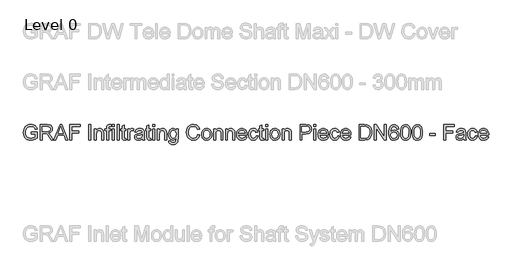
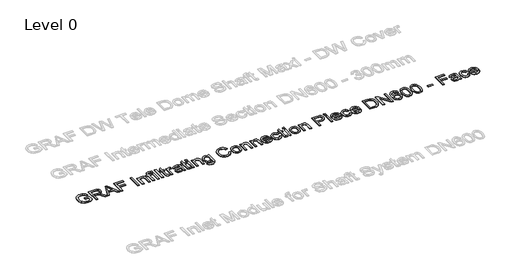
# One storey, part 9 of 25: 1 proxy.
"""IFC4 building model written with IfcOpenShell, lengths in millimetres."""

from ifc_helpers import new_model, si_unit, origin, origin_with_axes, place, context, project, spatial, polyline, outline, extrude, element, save

model = new_model("IFC4")

# Units and contexts
model_context = context("Model", 3, world=origin())
ifc_project = project(units=[si_unit("LENGTHUNIT", "METRE", prefix="MILLI")], contexts=[model_context])

# Site, building, storey
site = spatial("IfcSite", under=ifc_project)
building = spatial("IfcBuilding", under=site)
storey = spatial("IfcBuildingStorey", under=building, Name="Level 0", Elevation=0.0)

# Proxy
placement = place(None, origin())
element("IfcBuildingElementProxy", 1, Name="300mm Arial", ObjectType="300mm Arial", at=placement, inside=storey, context=model_context, shape_type="SweptSolid", body=[
    extrude(outline(polyline([(-15240.9940387, -2083.2545597), (-15240.9940387, -2045.5834434), (-15118.5629107, -2045.5834434), (-15118.5629107, -2158.2289103), (-15148.3153671, -2178.9222726), (-15179.0059225, -2193.7663111), (-15210.5610007, -2202.7058436), (-15242.9070251, -2205.6856877), (-15285.1674693, -2200.949207), (-15323.3628175, -2186.739765), (-15355.0926395, -2163.5540022), (-15377.9565055, -2131.8885595), (-15391.7796715, -2093.9047435), (-15396.3873935, -2051.7638609), (-15391.7980656, -2009.3194757), (-15378.0300819, -1969.8365406), (-15355.6536596, -1936.717964), (-15325.2390156, -1913.3666543), (-15288.1932987, -1899.5158972), (-15245.9236575, -1894.8989782), (-15214.8928112, -1897.5753197), (-15186.9889618, -1905.6043443), (-15163.4904994, -1918.4066377), (-15145.6758138, -1935.4027859), (-15132.4964413, -1957.4113262), (-15122.9039183, -1985.2507962), (-15157.6319786, -1995.0364573), (-15165.3850917, -1975.1800266), (-15174.8120678, -1960.1980323), (-15187.2832674, -1948.9040551), (-15204.169051, -1940.1116754), (-15224.3013932, -1934.4554897), (-15246.5122687, -1932.5700945), (-15272.5123287, -1934.6026425), (-15294.7415982, -1940.7002866), (-15313.1173039, -1950.0996716), (-15327.5566722, -1962.0374423), (-15346.9440533, -1991.0633317), (-15355.7732212, -2019.50061), (-15358.7162772, -2050.2187566), (-15355.175413, -2086.2436009), (-15344.5528204, -2115.8856927), (-15327.1703961, -2138.9334997), (-15303.3500369, -2155.1754898), (-15275.4737787, -2164.804801), (-15245.9236575, -2168.0145714), (-15219.831627, -2165.5957473), (-15194.3833899, -2158.3392749), (-15172.2828791, -2148.3420817), (-15156.234027, -2137.701095), (-15156.234027, -2083.2545597), (-15240.9940387, -2083.2545597)])), origin_with_axes(), (0.0, 0.0, 1.0), 10.0),
    extrude(outline(polyline([(-15057.3473467, -2200.9767982), (-15057.3473467, -1899.6078677), (-14927.4850024, -1899.6078677), (-14892.5821982, -1901.6404158), (-14867.1891434, -1907.7380598), (-14848.6294968, -1918.9952489), (-14834.2269167, -1936.5064318), (-14824.9838815, -1958.2206666), (-14821.9028698, -1982.087011), (-14827.0072325, -2011.7750881), (-14842.3203206, -2036.3863935), (-14853.9200997, -2046.4157764), (-14868.3019865, -2054.4310054), (-14905.4120827, -2064.4190016), (-14884.0013506, -2080.532233), (-14853.467145, -2119.3069952), (-14803.2144645, -2200.9767982), (-14846.9924219, -2200.9767982), (-14886.2086426, -2138.5104354), (-14914.5355562, -2097.1604991), (-14934.4379722, -2077.6259652), (-14952.3538253, -2070.4522663), (-14974.2060158, -2069.1278911), (-15019.6762304, -2069.1278911), (-15019.6762304, -2200.9767982), (-15057.3473467, -2200.9767982)]), holes=[polyline([(-15019.6762304, -2031.4567748), (-14935.3576771, -2031.4567748), (-14911.1418448, -2030.1232026), (-14892.3522719, -2026.1224859), (-14878.2072092, -2019.1879103), (-14867.9249074, -2009.0527613), (-14861.6617165, -1996.7930938), (-14859.5739861, -1983.4849626), (-14863.5563087, -1965.109257), (-14875.5032765, -1950.3020067), (-14896.058683, -1940.5347397), (-14925.8663217, -1937.278984), (-15019.6762304, -1937.278984), (-15019.6762304, -2031.4567748)])]), origin_with_axes(), (0.0, 0.0, 1.0), 10.0),
    extrude(outline(polyline([(-14791.0743586, -2200.9767982), (-14670.7769462, -1899.6078677), (-14638.6976362, -1899.6078677), (-14518.4002238, -2200.9767982), (-14558.2050557, -2200.9767982), (-14592.7123868, -2106.7990074), (-14716.835772, -2106.7990074), (-14751.2695268, -2200.9767982), (-14791.0743586, -2200.9767982)]), holes=[polyline([(-14703.003409, -2069.1278911), (-14606.4711735, -2069.1278911), (-14633.6208647, -1995.0364573), (-14654.7372912, -1937.278984), (-14673.499273, -1988.5617342), (-14703.003409, -2069.1278911)])]), origin_with_axes(), (0.0, 0.0, 1.0), 10.0),
    extrude(outline(polyline([(-14478.1539335, -2200.9767982), (-14478.1539335, -1899.6078677), (-14275.6716834, -1899.6078677), (-14275.6716834, -1937.278984), (-14440.4828172, -1937.278984), (-14440.4828172, -2026.7478853), (-14299.2161311, -2026.7478853), (-14299.2161311, -2064.4190016), (-14440.4828172, -2064.4190016), (-14440.4828172, -2200.9767982), (-14478.1539335, -2200.9767982)])), origin_with_axes(), (0.0, 0.0, 1.0), 10.0),
    extrude(outline(polyline([(-14101.4427705, -2200.9767982), (-14101.4427705, -1899.6078677), (-14063.7716542, -1899.6078677), (-14063.7716542, -2200.9767982), (-14101.4427705, -2200.9767982)])), origin_with_axes(), (0.0, 0.0, 1.0), 10.0),
    extrude(outline(polyline([(-13993.1383111, -2200.9767982), (-13993.1383111, -1979.6589899), (-13955.4671948, -1979.6589899), (-13955.4671948, -2010.5610775), (-13942.3797928, -1994.981275), (-13926.6620346, -1983.8528446), (-13908.3139201, -1977.1757864), (-13887.3354493, -1974.9501003), (-13868.7666056, -1976.7435251), (-13851.7612603, -1982.1237992), (-13837.5794094, -1990.4195382), (-13827.4810487, -2000.9593574), (-13816.1870714, -2028.6608716), (-13814.2005086, -2065.0811892), (-13814.2005086, -2200.9767982), (-13851.8716249, -2200.9767982), (-13851.8716249, -2070.1579607), (-13856.2126325, -2036.8278519), (-13862.2183061, -2026.9042351), (-13871.5533117, -2019.2063044), (-13883.5186736, -2014.2674886), (-13897.415416, -2012.6212166), (-13919.4791386, -2016.3184307), (-13938.2871056, -2027.4100729), (-13945.8033946, -2036.4645685), (-13951.1721725, -2048.8391991), (-13955.4671948, -2083.5488653), (-13955.4671948, -2200.9767982), (-13993.1383111, -2200.9767982)])), origin_with_axes(), (0.0, 0.0, 1.0), 10.0),
    extrude(outline(polyline([(-13752.9849446, -2200.9767982), (-13752.9849446, -2017.3301062), (-13785.9471714, -2017.3301062), (-13785.9471714, -1979.6589899), (-13752.9849446, -1979.6589899), (-13752.9849446, -1957.365341), (-13749.0118191, -1925.9482186), (-13741.43345, -1913.4218366), (-13729.7348025, -1903.5074169), (-13713.3640538, -1897.0510879), (-13691.7693806, -1894.8989782), (-13657.4092023, -1899.0192565), (-13662.9274322, -1934.3359281), (-13684.6324699, -1932.5700945), (-13698.9522766, -1934.133593), (-13708.3608586, -1938.8240884), (-13713.5755859, -1947.782015), (-13715.3138283, -1962.1478069), (-13715.3138283, -1979.6589899), (-13672.9338225, -1979.6589899), (-13672.9338225, -2017.3301062), (-13715.3138283, -2017.3301062), (-13715.3138283, -2200.9767982), (-13752.9849446, -2200.9767982)])), origin_with_axes(), (0.0, 0.0, 1.0), 10.0),
    extrude(outline(polyline([(-13639.9715957, -1937.278984), (-13639.9715957, -1899.6078677), (-13602.3004794, -1899.6078677), (-13602.3004794, -1937.278984), (-13639.9715957, -1937.278984)])), origin_with_axes(), (0.0, 0.0, 1.0), 10.0),
    extrude(outline(polyline([(-13639.9715957, -2200.9767982), (-13639.9715957, -1979.6589899), (-13602.3004794, -1979.6589899), (-13602.3004794, -2200.9767982), (-13639.9715957, -2200.9767982)])), origin_with_axes(), (0.0, 0.0, 1.0), 10.0),
    extrude(outline(polyline([(-13545.793805, -2200.9767982), (-13545.793805, -1899.6078677), (-13508.1226887, -1899.6078677), (-13508.1226887, -2200.9767982), (-13545.793805, -2200.9767982)])), origin_with_axes(), (0.0, 0.0, 1.0), 10.0),
    extrude(outline(polyline([(-13371.564892, -2169.5596758), (-13366.8560025, -2202.0804442), (-13395.0357633, -2205.6856877), (-13413.1171634, -2204.1221892), (-13426.6000385, -2199.4316938), (-13436.1281822, -2192.2028126), (-13442.3453879, -2183.0241568), (-13445.7666905, -2167.2604133), (-13446.9071247, -2140.276269), (-13446.9071247, -2017.3301062), (-13475.1604619, -2017.3301062), (-13475.1604619, -1979.6589899), (-13446.9071247, -1979.6589899), (-13446.9071247, -1925.8746422), (-13409.2360084, -1903.7281461), (-13409.2360084, -1979.6589899), (-13371.564892, -1979.6589899), (-13371.564892, -2017.3301062), (-13409.2360084, -2017.3301062), (-13409.2360084, -2139.172623), (-13407.2494456, -2158.5967923), (-13400.8115107, -2165.4761856), (-13387.972429, -2168.0145714), (-13371.564892, -2169.5596758)])), origin_with_axes(), (0.0, 0.0, 1.0), 10.0),
    extrude(outline(polyline([(-13333.8937757, -2200.9767982), (-13333.8937757, -1979.6589899), (-13300.931549, -1979.6589899), (-13300.931549, -2012.4004875), (-13288.7546549, -1993.4177765), (-13277.5342541, -1982.2341638), (-13266.277065, -1976.7711162), (-13253.9898064, -1974.9501003), (-13235.2278246, -1977.8563681), (-13216.1715373, -1986.5751714), (-13228.7531015, -2020.3467385), (-13241.9968533, -2014.5525971), (-13255.2406052, -2012.6212166), (-13266.4885972, -2014.4790207), (-13276.5409727, -2020.052433), (-13284.6619677, -2028.918389), (-13290.1158183, -2040.6538247), (-13294.6959492, -2061.6966748), (-13296.2226594, -2084.6525113), (-13296.2226594, -2200.9767982), (-13333.8937757, -2200.9767982)])), origin_with_axes(), (0.0, 0.0, 1.0), 10.0),
    extrude(outline(polyline([(-13051.3604034, -2172.7234609), (-13069.3590301, -2188.1561106), (-13087.8910856, -2198.2544714), (-13107.3796343, -2203.8278836), (-13128.2477404, -2205.6856877), (-13159.7292422, -2201.2159215), (-13182.9517931, -2187.8066228), (-13197.2715998, -2167.4443543), (-13202.0448687, -2142.1156789), (-13200.2422469, -2126.4990883), (-13194.8343816, -2112.3172373), (-13186.4926573, -2100.1771315), (-13175.8884588, -2090.685776), (-13149.5113198, -2078.324941), (-13116.916975, -2072.6595583), (-13078.3997301, -2066.6998699), (-13051.5811326, -2059.710112), (-13051.3604034, -2051.3224025), (-13053.9539715, -2034.5101954), (-13061.7346757, -2023.5105237), (-13079.1354941, -2015.3435434), (-13103.3789176, -2012.6212166), (-13125.8197193, -2014.4330355), (-13141.4914923, -2019.868492), (-13152.1784642, -2029.9208675), (-13159.6648628, -2045.5834434), (-13197.3359791, -2040.8745539), (-13190.7968767, -2020.2731621), (-13181.0388067, -2004.0863544), (-13167.1512614, -1991.7071252), (-13148.2237328, -1982.5284694), (-13125.0747582, -1976.8446926), (-13098.5228752, -1974.9501003), (-13073.0562441, -1976.6239634), (-13052.8687196, -1981.6455527), (-13037.6476021, -1989.1963306), (-13027.0801918, -1998.4577598), (-13020.0720398, -2009.9080869), (-13015.5286971, -2024.0255585), (-13013.6892871, -2056.9877853), (-13013.6892871, -2103.8559515), (-13011.7763008, -2169.3021584), (-13004.2715081, -2200.9767982), (-13041.9426244, -2200.9767982), (-13051.3604034, -2172.7234609)]), holes=[polyline([(-13051.3604034, -2097.3812283), (-13112.134509, -2108.932723), (-13144.5449128, -2115.0395641), (-13159.2234044, -2124.972378), (-13164.3737524, -2139.4669286), (-13161.5686521, -2150.6689353), (-13153.1533515, -2159.8475911), (-13139.3117914, -2165.9728263), (-13120.2279129, -2168.0145714), (-13099.9944032, -2165.7612942), (-13082.1153382, -2159.0014625), (-13067.6207876, -2149.0410575), (-13057.540821, -2137.1860602), (-13053.0710547, -2124.972378), (-13051.5811326, -2108.0498062), (-13051.3604034, -2097.3812283)])]), origin_with_axes(), (0.0, 0.0, 1.0), 10.0),
    extrude(outline(polyline([(-12881.8403801, -2169.5596758), (-12877.1314905, -2202.0804442), (-12905.3112514, -2205.6856877), (-12923.3926514, -2204.1221892), (-12936.8755265, -2199.4316938), (-12946.4036702, -2192.2028126), (-12952.6208759, -2183.0241568), (-12956.0421785, -2167.2604133), (-12957.1826127, -2140.276269), (-12957.1826127, -2017.3301062), (-12985.4359499, -2017.3301062), (-12985.4359499, -1979.6589899), (-12957.1826127, -1979.6589899), (-12957.1826127, -1925.8746422), (-12919.5114964, -1903.7281461), (-12919.5114964, -1979.6589899), (-12881.8403801, -1979.6589899), (-12881.8403801, -2017.3301062), (-12919.5114964, -2017.3301062), (-12919.5114964, -2139.172623), (-12917.5249336, -2158.5967923), (-12911.0869987, -2165.4761856), (-12898.2479171, -2168.0145714), (-12881.8403801, -2169.5596758)])), origin_with_axes(), (0.0, 0.0, 1.0), 10.0),
    extrude(outline(polyline([(-12844.1692638, -1937.278984), (-12844.1692638, -1899.6078677), (-12806.4981475, -1899.6078677), (-12806.4981475, -1937.278984), (-12844.1692638, -1937.278984)])), origin_with_axes(), (0.0, 0.0, 1.0), 10.0),
    extrude(outline(polyline([(-12844.1692638, -2200.9767982), (-12844.1692638, -1979.6589899), (-12806.4981475, -1979.6589899), (-12806.4981475, -2200.9767982), (-12844.1692638, -2200.9767982)])), origin_with_axes(), (0.0, 0.0, 1.0), 10.0),
    extrude(outline(polyline([(-12749.991473, -2200.9767982), (-12749.991473, -1979.6589899), (-12712.3203567, -1979.6589899), (-12712.3203567, -2010.5610775), (-12699.2329547, -1994.981275), (-12683.5151965, -1983.8528446), (-12665.167082, -1977.1757864), (-12644.1886112, -1974.9501003), (-12625.6197675, -1976.7435251), (-12608.6144222, -1982.1237992), (-12594.4325713, -1990.4195382), (-12584.3342106, -2000.9593574), (-12573.0402333, -2028.6608716), (-12571.0536705, -2065.0811892), (-12571.0536705, -2200.9767982), (-12608.7247868, -2200.9767982), (-12608.7247868, -2070.1579607), (-12613.0657944, -2036.8278519), (-12619.071468, -2026.9042351), (-12628.4064736, -2019.2063044), (-12640.3718355, -2014.2674886), (-12654.2685778, -2012.6212166), (-12676.3323005, -2016.3184307), (-12695.1402675, -2027.4100729), (-12702.6565565, -2036.4645685), (-12708.0253344, -2048.8391991), (-12712.3203567, -2083.5488653), (-12712.3203567, -2200.9767982), (-12749.991473, -2200.9767982)])), origin_with_axes(), (0.0, 0.0, 1.0), 10.0),
    extrude(outline(polyline([(-12528.6736647, -2219.8123563), (-12491.0025484, -2224.5212459), (-12486.8454818, -2236.2934697), (-12478.7888662, -2244.3868736), (-12462.9515463, -2250.6776557), (-12442.2213958, -2252.7745831), (-12420.1116879, -2250.4017442), (-12403.6673627, -2243.2832276), (-12392.2630209, -2231.8788858), (-12385.273263, -2216.6485712), (-12382.698089, -2172.7234609), (-12395.233668, -2185.084296), (-12409.2223809, -2193.9134639), (-12424.6642276, -2199.2109646), (-12441.5592082, -2200.9767982), (-12462.213483, -2198.9212575), (-12480.3983499, -2192.7546356), (-12496.1138089, -2182.4769323), (-12509.3598599, -2168.0881478), (-12519.8697887, -2150.8252852), (-12527.3768807, -2131.9253477), (-12531.8811358, -2111.3883353), (-12533.3825542, -2089.214248), (-12530.6878186, -2058.7996041), (-12522.6036118, -2030.8313754), (-12509.4150422, -2007.1305779), (-12491.4072186, -1989.5182274), (-12469.1963431, -1978.5921321), (-12443.3986182, -1974.9501003), (-12425.7816692, -1977.0102395), (-12409.792598, -1983.190657), (-12395.4314046, -1993.4913529), (-12382.698089, -2007.9123271), (-12382.698089, -1979.6589899), (-12345.0269727, -1979.6589899), (-12345.0269727, -2170.7368982), (-12347.6021467, -2214.8551464), (-12355.3276686, -2243.908627), (-12368.6357997, -2263.1764465), (-12387.9588015, -2277.9377116), (-12412.8736097, -2287.3187024), (-12442.9571598, -2290.4456994), (-12478.0071169, -2286.0403125), (-12505.6074636, -2272.8241518), (-12516.0024292, -2262.9028343), (-12523.3117846, -2250.7604292), (-12527.5355298, -2236.3969365), (-12528.6736647, -2219.8123563)]), holes=[polyline([(-12495.7114379, -2086.6390741), (-12491.6923271, -2121.1923905), (-12479.6349947, -2144.9483703), (-12461.5076094, -2158.716354), (-12439.2783399, -2163.3056819), (-12417.2146172, -2158.7439451), (-12398.9952614, -2145.0587349), (-12386.7723821, -2121.6062577), (-12382.698089, -2087.7427201), (-12386.8919438, -2055.0839959), (-12399.473508, -2031.5671394), (-12417.9595782, -2017.3576973), (-12439.8669511, -2012.6212166), (-12461.3788507, -2017.2841209), (-12479.4142655, -2031.2728338), (-12491.6371448, -2054.4402024), (-12495.7114379, -2086.6390741)])]), origin_with_axes(), (0.0, 0.0, 1.0), 10.0),
    extrude(outline(polyline([(-11954.189141, -2093.8495612), (-11916.5180247, -2103.5616459), (-11923.9722336, -2126.9888312), (-11933.900449, -2147.4591649), (-11946.3026708, -2164.9726472), (-11961.1788989, -2179.5292779), (-11978.1934412, -2190.9727072), (-11997.0106053, -2199.1465853), (-12017.6303911, -2204.0509121), (-12040.0527987, -2205.6856877), (-12083.7479827, -2200.7376749), (-12118.4484519, -2185.8936364), (-12145.0463201, -2161.668607), (-12164.4337013, -2128.5776215), (-12176.2703045, -2089.6741005), (-12180.2158389, -2048.0114646), (-12175.7552697, -2004.0679603), (-12162.3735621, -1966.1209325), (-12140.7696919, -1935.3751947), (-12111.642635, -1913.0355606), (-12077.0985156, -1899.4331238), (-12039.2434583, -1894.8989782), (-11997.9395073, -1900.766696), (-11979.9707711, -1908.1013433), (-11963.7908611, -1918.3698495), (-11949.6664918, -1931.3009016), (-11937.8643775, -1946.6231867), (-11921.2269143, -1984.4414558), (-11958.8980306, -1993.4177765), (-11971.9578414, -1965.9461885), (-11989.8001182, -1947.1014333), (-12012.6455901, -1936.2029292), (-12040.7149863, -1932.5700945), (-12073.0702078, -1936.5984023), (-12099.6496819, -1948.6833259), (-12119.8188123, -1967.5556722), (-12132.9430025, -1991.9462485), (-12140.1442925, -2019.5190041), (-12142.5447226, -2047.9378882), (-12139.7028341, -2082.7395249), (-12131.1771689, -2112.8322721), (-12116.6458301, -2137.0664986), (-12095.786921, -2154.292573), (-12070.7801423, -2164.5840718), (-12043.8051951, -2168.0145714), (-12012.3604815, -2163.3424701), (-11986.1580864, -2149.3261661), (-11966.3752321, -2126.1128122), (-11954.189141, -2093.8495612)])), origin_with_axes(), (0.0, 0.0, 1.0), 10.0),
    extrude(outline(polyline([(-11878.8469084, -2090.317894), (-11876.8097619, -2061.6552881), (-11870.6983222, -2036.9566106), (-11860.5125895, -2016.2218617), (-11846.2525636, -1999.4510412), (-11831.8959688, -1988.7318796), (-11816.0494518, -1981.0753356), (-11798.7130128, -1976.4814091), (-11779.8866517, -1974.9501003), (-11759.1036182, -1976.8148022), (-11740.3117461, -1982.4089078), (-11723.5110352, -1991.7324171), (-11708.7014856, -2004.7853302), (-11696.6142628, -2021.1261885), (-11687.9805323, -2040.3135338), (-11682.8002939, -2062.3473661), (-11681.0735478, -2087.2276853), (-11684.1269684, -2125.2850777), (-11693.28723, -2154.2557848), (-11708.2876184, -2175.9516255), (-11728.861419, -2192.1844185), (-11753.2979805, -2202.3103704), (-11779.8866517, -2205.6856877), (-11800.9731878, -2203.8278836), (-11819.9398039, -2198.2544714), (-11836.7865001, -2188.965451), (-11851.5132762, -2175.9608225), (-11863.4717403, -2159.461315), (-11872.0135004, -2139.6876578), (-11877.1385564, -2116.6398508), (-11878.8469084, -2090.317894)]), holes=[polyline([(-11841.1757921, -2090.2443176), (-11836.8163905, -2124.3377815), (-11823.7381855, -2148.6271903), (-11804.0564988, -2163.1677261), (-11779.8866517, -2168.0145714), (-11755.8271692, -2163.140135), (-11736.1822707, -2148.5168257), (-11723.1040658, -2123.9055202), (-11718.7446641, -2089.0670952), (-11723.1316569, -2055.9669127), (-11736.2926353, -2032.0085978), (-11755.965125, -2017.4680619), (-11779.8866517, -2012.6212166), (-11804.0564988, -2017.4496678), (-11823.7381855, -2031.9350214), (-11836.8163905, -2056.1692478), (-11841.1757921, -2090.2443176)])]), origin_with_axes(), (0.0, 0.0, 1.0), 10.0),
    extrude(outline(polyline([(-11638.693542, -2200.9767982), (-11638.693542, -1979.6589899), (-11601.0224257, -1979.6589899), (-11601.0224257, -2010.5610775), (-11587.9350237, -1994.981275), (-11572.2172654, -1983.8528446), (-11553.8691509, -1977.1757864), (-11532.8906802, -1974.9501003), (-11514.3218364, -1976.7435251), (-11497.3164912, -1982.1237992), (-11483.1346403, -1990.4195382), (-11473.0362795, -2000.9593574), (-11461.7423023, -2028.6608716), (-11459.7557395, -2065.0811892), (-11459.7557395, -2200.9767982), (-11497.4268558, -2200.9767982), (-11497.4268558, -2070.1579607), (-11501.7678634, -2036.8278519), (-11507.7735369, -2026.9042351), (-11517.1085426, -2019.2063044), (-11529.0739045, -2014.2674886), (-11542.9706468, -2012.6212166), (-11565.0343695, -2016.3184307), (-11583.8423365, -2027.4100729), (-11591.3586255, -2036.4645685), (-11596.7274034, -2048.8391991), (-11601.0224257, -2083.5488653), (-11601.0224257, -2200.9767982), (-11638.693542, -2200.9767982)])), origin_with_axes(), (0.0, 0.0, 1.0), 10.0),
    extrude(outline(polyline([(-11407.9579546, -2200.9767982), (-11407.9579546, -1979.6589899), (-11370.2868383, -1979.6589899), (-11370.2868383, -2010.5610775), (-11357.1994363, -1994.981275), (-11341.4816781, -1983.8528446), (-11323.1335636, -1977.1757864), (-11302.1550928, -1974.9501003), (-11283.5862491, -1976.7435251), (-11266.5809038, -1982.1237992), (-11252.3990529, -1990.4195382), (-11242.3006922, -2000.9593574), (-11231.0067149, -2028.6608716), (-11229.0201521, -2065.0811892), (-11229.0201521, -2200.9767982), (-11266.6912684, -2200.9767982), (-11266.6912684, -2070.1579607), (-11271.032276, -2036.8278519), (-11277.0379496, -2026.9042351), (-11286.3729552, -2019.2063044), (-11298.3383171, -2014.2674886), (-11312.2350594, -2012.6212166), (-11334.2987821, -2016.3184307), (-11353.1067491, -2027.4100729), (-11360.6230381, -2036.4645685), (-11365.991816, -2048.8391991), (-11370.2868383, -2083.5488653), (-11370.2868383, -2200.9767982), (-11407.9579546, -2200.9767982)])), origin_with_axes(), (0.0, 0.0, 1.0), 10.0),
    extrude(outline(polyline([(-11022.2704708, -2135.0523446), (-10985.3351185, -2139.7612342), (-10998.6432497, -2167.5915071), (-11019.8792379, -2188.3952339), (-11048.5648365, -2201.3630743), (-11084.2217988, -2205.6856877), (-11107.5961011, -2203.8209859), (-11128.4228206, -2198.2268803), (-11146.7019572, -2188.9033709), (-11162.433511, -2175.8504579), (-11175.0840531, -2159.4314246), (-11184.1201546, -2140.0095545), (-11189.5418155, -2117.5848477), (-11191.3490358, -2092.157304), (-11189.5234214, -2065.8675369), (-11184.0465782, -2042.6955698), (-11174.9185062, -2022.6414025), (-11162.1392054, -2005.7050351), (-11146.4490383, -1992.2497512), (-11128.5883675, -1982.638834), (-11108.5571928, -1976.8722838), (-11086.3555144, -1974.9501003), (-11064.8689066, -1976.8676852), (-11045.4378395, -1982.6204399), (-11028.062313, -1992.2083644), (-11012.7423272, -2005.6314587), (-11000.2366386, -2022.5310379), (-10991.3040039, -2042.548417), (-10985.9444231, -2065.6835959), (-10984.1578961, -2091.9365748), (-10984.3786253, -2102.0901179), (-11153.6779195, -2102.0901179), (-11147.1572112, -2130.2882728), (-11132.00967, -2151.0184232), (-11110.1482824, -2163.7655344), (-11083.4860348, -2168.0145714), (-11063.4364661, -2166.0464027), (-11046.5506825, -2160.1418967), (-11032.8286841, -2149.9331713), (-11022.2704708, -2135.0523446)]), holes=[polyline([(-11153.6779195, -2064.4190016), (-11021.8290125, -2064.4190016), (-11026.9241781, -2044.5165856), (-11036.9121743, -2030.2795524), (-11058.8747294, -2017.0358006), (-11086.5026672, -2012.6212166), (-11111.8957219, -2016.1436868), (-11132.8925868, -2026.7110971), (-11147.488305, -2043.1830134), (-11153.6779195, -2064.4190016)])]), origin_with_axes(), (0.0, 0.0, 1.0), 10.0),
    extrude(outline(polyline([(-10805.2200937, -2120.925676), (-10767.5489774, -2125.6345656), (-10778.0520083, -2159.1394183), (-10797.7888774, -2184.4588966), (-10824.9017804, -2200.3789899), (-10857.5329134, -2205.6856877), (-10878.6608362, -2203.8347814), (-10897.6044597, -2198.2820626), (-10914.3637839, -2189.0275311), (-10928.9388087, -2176.0711871), (-10940.7363244, -2159.6567523), (-10949.1631214, -2140.0279486), (-10954.2191995, -2117.184776), (-10955.9045589, -2091.1272344), (-10953.0258823, -2057.6039876), (-10944.3898525, -2028.550507), (-10929.8585137, -2005.0888328), (-10909.2939101, -1988.341005), (-10884.6918017, -1978.2978265), (-10858.0479482, -1974.9501003), (-10826.2169586, -1979.5486253), (-10800.7687216, -1993.3442001), (-10782.5125775, -2015.6010608), (-10772.2578669, -2045.5834434), (-10809.9289832, -2050.292333), (-10816.7623913, -2033.8572048), (-10827.403378, -2022.0757839), (-10841.2633322, -2014.9848585), (-10857.7536426, -2012.6212166), (-10882.0982336, -2017.2749239), (-10901.4212354, -2031.2360456), (-10914.0303908, -2055.2587399), (-10918.2334426, -2090.0971648), (-10914.1223613, -2125.4046393), (-10901.7891174, -2149.5101071), (-10882.8156035, -2163.3884553), (-10858.7837122, -2168.0145714), (-10839.2767694, -2165.1266977), (-10823.2830997, -2156.4630768), (-10811.6488316, -2141.8029793), (-10805.2200937, -2120.925676)])), origin_with_axes(), (0.0, 0.0, 1.0), 10.0),
    extrude(outline(polyline([(-10654.5356285, -2169.5596758), (-10649.8267389, -2202.0804442), (-10678.0064998, -2205.6856877), (-10696.0878998, -2204.1221892), (-10709.5707749, -2199.4316938), (-10719.0989186, -2192.2028126), (-10725.3161243, -2183.0241568), (-10728.7374269, -2167.2604133), (-10729.8778611, -2140.276269), (-10729.8778611, -2017.3301062), (-10758.1311983, -2017.3301062), (-10758.1311983, -1979.6589899), (-10729.8778611, -1979.6589899), (-10729.8778611, -1925.8746422), (-10692.2067448, -1903.7281461), (-10692.2067448, -1979.6589899), (-10654.5356285, -1979.6589899), (-10654.5356285, -2017.3301062), (-10692.2067448, -2017.3301062), (-10692.2067448, -2139.172623), (-10690.220182, -2158.5967923), (-10683.7822471, -2165.4761856), (-10670.9431655, -2168.0145714), (-10654.5356285, -2169.5596758)])), origin_with_axes(), (0.0, 0.0, 1.0), 10.0),
    extrude(outline(polyline([(-10616.8645122, -1937.278984), (-10616.8645122, -1899.6078677), (-10579.1933959, -1899.6078677), (-10579.1933959, -1937.278984), (-10616.8645122, -1937.278984)])), origin_with_axes(), (0.0, 0.0, 1.0), 10.0),
    extrude(outline(polyline([(-10616.8645122, -2200.9767982), (-10616.8645122, -1979.6589899), (-10579.1933959, -1979.6589899), (-10579.1933959, -2200.9767982), (-10616.8645122, -2200.9767982)])), origin_with_axes(), (0.0, 0.0, 1.0), 10.0),
    extrude(outline(polyline([(-10532.1045005, -2090.317894), (-10530.0673539, -2061.6552881), (-10523.9559143, -2036.9566106), (-10513.7701815, -2016.2218617), (-10499.5101557, -1999.4510412), (-10485.1535608, -1988.7318796), (-10469.3070439, -1981.0753356), (-10451.9706049, -1976.4814091), (-10433.1442438, -1974.9501003), (-10412.3612103, -1976.8148022), (-10393.5693381, -1982.4089078), (-10376.7686273, -1991.7324171), (-10361.9590777, -2004.7853302), (-10349.8718549, -2021.1261885), (-10341.2381243, -2040.3135338), (-10336.057886, -2062.3473661), (-10334.3311399, -2087.2276853), (-10337.3845604, -2125.2850777), (-10346.5448221, -2154.2557848), (-10361.5452105, -2175.9516255), (-10382.119011, -2192.1844185), (-10406.5555726, -2202.3103704), (-10433.1442438, -2205.6856877), (-10454.2307799, -2203.8278836), (-10473.197396, -2198.2544714), (-10490.0440921, -2188.965451), (-10504.7708682, -2175.9608225), (-10516.7293323, -2159.461315), (-10525.2710924, -2139.6876578), (-10530.3961485, -2116.6398508), (-10532.1045005, -2090.317894)]), holes=[polyline([(-10494.4333842, -2090.2443176), (-10490.0739825, -2124.3377815), (-10476.9957776, -2148.6271903), (-10457.3140909, -2163.1677261), (-10433.1442438, -2168.0145714), (-10409.0847613, -2163.140135), (-10389.4398627, -2148.5168257), (-10376.3616578, -2123.9055202), (-10372.0022562, -2089.0670952), (-10376.389249, -2055.9669127), (-10389.5502273, -2032.0085978), (-10409.222717, -2017.4680619), (-10433.1442438, -2012.6212166), (-10457.3140909, -2017.4496678), (-10476.9957776, -2031.9350214), (-10490.0739825, -2056.1692478), (-10494.4333842, -2090.2443176)])]), origin_with_axes(), (0.0, 0.0, 1.0), 10.0),
    extrude(outline(polyline([(-10291.951134, -2200.9767982), (-10291.951134, -1979.6589899), (-10254.2800177, -1979.6589899), (-10254.2800177, -2010.5610775), (-10241.1926157, -1994.981275), (-10225.4748575, -1983.8528446), (-10207.126743, -1977.1757864), (-10186.1482722, -1974.9501003), (-10167.5794285, -1976.7435251), (-10150.5740833, -1982.1237992), (-10136.3922324, -1990.4195382), (-10126.2938716, -2000.9593574), (-10114.9998943, -2028.6608716), (-10113.0133316, -2065.0811892), (-10113.0133316, -2200.9767982), (-10150.6844479, -2200.9767982), (-10150.6844479, -2070.1579607), (-10155.0254554, -2036.8278519), (-10161.031129, -2026.9042351), (-10170.3661346, -2019.2063044), (-10182.3314965, -2014.2674886), (-10196.2282389, -2012.6212166), (-10218.2919615, -2016.3184307), (-10237.0999285, -2027.4100729), (-10244.6162176, -2036.4645685), (-10249.9849954, -2048.8391991), (-10254.2800177, -2083.5488653), (-10254.2800177, -2200.9767982), (-10291.951134, -2200.9767982)])), origin_with_axes(), (0.0, 0.0, 1.0), 10.0),
    extrude(outline(polyline([(-9938.7844187, -2200.9767982), (-9938.7844187, -1899.6078677), (-9827.0954449, -1899.6078677), (-9782.0666887, -1902.4773473), (-9761.9895288, -1907.8392274), (-9745.4624302, -1916.5672277), (-9732.154299, -1929.0568214), (-9721.7340415, -1945.7034817), (-9715.001801, -1965.3391832), (-9712.7577208, -1986.7959006), (-9714.2729348, -2005.2957664), (-9718.8185767, -2022.3149072), (-9726.3946465, -2037.853323), (-9737.0011443, -2051.9110137), (-9751.5623735, -2063.5636759), (-9771.0026377, -2071.8870061), (-9795.3219368, -2076.8810042), (-9824.5202709, -2078.5456702), (-9901.1133023, -2078.5456702), (-9901.1133023, -2200.9767982), (-9938.7844187, -2200.9767982)]), holes=[polyline([(-9901.1133023, -2040.8745539), (-9822.312979, -2040.8745539), (-9788.9092938, -2037.4164631), (-9766.8363741, -2027.0421909), (-9754.5307214, -2010.3955306), (-9750.4288371, -1988.1202758), (-9752.8476612, -1971.197704), (-9760.1041336, -1956.9238826), (-9771.2969433, -1946.1817283), (-9785.5247795, -1939.854158), (-9823.1958958, -1937.278984), (-9901.1133023, -1937.278984), (-9901.1133023, -2040.8745539)])]), origin_with_axes(), (0.0, 0.0, 1.0), 10.0),
    extrude(outline(polyline([(-9665.6688254, -1937.278984), (-9665.6688254, -1899.6078677), (-9627.9977091, -1899.6078677), (-9627.9977091, -1937.278984), (-9665.6688254, -1937.278984)])), origin_with_axes(), (0.0, 0.0, 1.0), 10.0),
    extrude(outline(polyline([(-9665.6688254, -2200.9767982), (-9665.6688254, -1979.6589899), (-9627.9977091, -1979.6589899), (-9627.9977091, -2200.9767982), (-9665.6688254, -2200.9767982)])), origin_with_axes(), (0.0, 0.0, 1.0), 10.0),
    extrude(outline(polyline([(-9416.5391383, -2135.0523446), (-9379.603786, -2139.7612342), (-9392.9119172, -2167.5915071), (-9414.1479053, -2188.3952339), (-9442.8335039, -2201.3630743), (-9478.4904663, -2205.6856877), (-9501.8647686, -2203.8209859), (-9522.691488, -2198.2268803), (-9540.9706246, -2188.9033709), (-9556.7021785, -2175.8504579), (-9569.3527206, -2159.4314246), (-9578.3888221, -2140.0095545), (-9583.810483, -2117.5848477), (-9585.6177033, -2092.157304), (-9583.7920889, -2065.8675369), (-9578.3152457, -2042.6955698), (-9569.1871737, -2022.6414025), (-9556.4078729, -2005.7050351), (-9540.7177058, -1992.2497512), (-9522.8570349, -1982.638834), (-9502.8258603, -1976.8722838), (-9480.6241819, -1974.9501003), (-9459.1375741, -1976.8676852), (-9439.7065069, -1982.6204399), (-9422.3309805, -1992.2083644), (-9407.0109946, -2005.6314587), (-9394.5053061, -2022.5310379), (-9385.5726714, -2042.548417), (-9380.2130905, -2065.6835959), (-9378.4265636, -2091.9365748), (-9378.6472928, -2102.0901179), (-9547.946587, -2102.0901179), (-9541.4258786, -2130.2882728), (-9526.2783375, -2151.0184232), (-9504.4169499, -2163.7655344), (-9477.7547023, -2168.0145714), (-9457.7051336, -2166.0464027), (-9440.81935, -2160.1418967), (-9427.0973516, -2149.9331713), (-9416.5391383, -2135.0523446)]), holes=[polyline([(-9547.946587, -2064.4190016), (-9416.0976799, -2064.4190016), (-9421.1928455, -2044.5165856), (-9431.1808417, -2030.2795524), (-9453.1433968, -2017.0358006), (-9480.7713347, -2012.6212166), (-9506.1643894, -2016.1436868), (-9527.1612542, -2026.7110971), (-9541.7569724, -2043.1830134), (-9547.946587, -2064.4190016)])]), origin_with_axes(), (0.0, 0.0, 1.0), 10.0),
    extrude(outline(polyline([(-9199.4887611, -2120.925676), (-9161.8176448, -2125.6345656), (-9172.3206758, -2159.1394183), (-9192.0575448, -2184.4588966), (-9219.1704479, -2200.3789899), (-9251.8015809, -2205.6856877), (-9272.9295037, -2203.8347814), (-9291.8731272, -2198.2820626), (-9308.6324513, -2189.0275311), (-9323.2074761, -2176.0711871), (-9335.0049919, -2159.6567523), (-9343.4317888, -2140.0279486), (-9348.487867, -2117.184776), (-9350.1732264, -2091.1272344), (-9347.2945498, -2057.6039876), (-9338.6585199, -2028.550507), (-9324.1271811, -2005.0888328), (-9303.5625776, -1988.341005), (-9278.9604692, -1978.2978265), (-9252.3166157, -1974.9501003), (-9220.485626, -1979.5486253), (-9195.037389, -1993.3442001), (-9176.781245, -2015.6010608), (-9166.5265344, -2045.5834434), (-9204.1976507, -2050.292333), (-9211.0310587, -2033.8572048), (-9221.6720455, -2022.0757839), (-9235.5319996, -2014.9848585), (-9252.0223101, -2012.6212166), (-9276.3669011, -2017.2749239), (-9295.6899029, -2031.2360456), (-9308.2990583, -2055.2587399), (-9312.5021101, -2090.0971648), (-9308.3910288, -2125.4046393), (-9296.0577849, -2149.5101071), (-9277.084271, -2163.3884553), (-9253.0523796, -2168.0145714), (-9233.5454368, -2165.1266977), (-9217.5517671, -2156.4630768), (-9205.917499, -2141.8029793), (-9199.4887611, -2120.925676)])), origin_with_axes(), (0.0, 0.0, 1.0), 10.0),
    extrude(outline(polyline([(-8973.9035217, -2135.0523446), (-8936.9681694, -2139.7612342), (-8950.2763006, -2167.5915071), (-8971.5122887, -2188.3952339), (-9000.1978873, -2201.3630743), (-9035.8548497, -2205.6856877), (-9059.229152, -2203.8209859), (-9080.0558714, -2198.2268803), (-9098.335008, -2188.9033709), (-9114.0665619, -2175.8504579), (-9126.717104, -2159.4314246), (-9135.7532055, -2140.0095545), (-9141.1748664, -2117.5848477), (-9142.9820867, -2092.157304), (-9141.1564723, -2065.8675369), (-9135.6796291, -2042.6955698), (-9126.5515571, -2022.6414025), (-9113.7722563, -2005.7050351), (-9098.0820892, -1992.2497512), (-9080.2214183, -1982.638834), (-9060.1902437, -1976.8722838), (-9037.9885653, -1974.9501003), (-9016.5019575, -1976.8676852), (-8997.0708903, -1982.6204399), (-8979.6953639, -1992.2083644), (-8964.375378, -2005.6314587), (-8951.8696895, -2022.5310379), (-8942.9370548, -2042.548417), (-8937.5774739, -2065.6835959), (-8935.790947, -2091.9365748), (-8936.0116762, -2102.0901179), (-9105.3109704, -2102.0901179), (-9098.790262, -2130.2882728), (-9083.6427209, -2151.0184232), (-9061.7813333, -2163.7655344), (-9035.1190857, -2168.0145714), (-9015.069517, -2166.0464027), (-8998.1837334, -2160.1418967), (-8984.461735, -2149.9331713), (-8973.9035217, -2135.0523446)]), holes=[polyline([(-9105.3109704, -2064.4190016), (-8973.4620633, -2064.4190016), (-8978.5572289, -2044.5165856), (-8988.5452251, -2030.2795524), (-9010.5077802, -2017.0358006), (-9038.1357181, -2012.6212166), (-9063.5287728, -2016.1436868), (-9084.5256377, -2026.7110971), (-9099.1213558, -2043.1830134), (-9105.3109704, -2064.4190016)])]), origin_with_axes(), (0.0, 0.0, 1.0), 10.0),
    extrude(outline(polyline([(-8775.6887027, -2200.9767982), (-8775.6887027, -1899.6078677), (-8671.7252509, -1899.6078677), (-8617.9409032, -1903.9488753), (-8593.9182089, -1912.3181907), (-8573.6479109, -1925.5067602), (-8552.8073959, -1948.4625967), (-8537.9633574, -1977.0102395), (-8529.0790072, -2010.5978657), (-8526.1175572, -2048.6736522), (-8528.122514, -2081.0196766), (-8534.1373847, -2109.484546), (-8543.2976463, -2133.7187724), (-8554.7387764, -2153.372868), (-8567.9089518, -2168.8882911), (-8582.2563496, -2180.7065002), (-8598.728266, -2189.4712888), (-8618.271997, -2195.8264502), (-8666.7220557, -2200.9767982), (-8775.6887027, -2200.9767982)]), holes=[polyline([(-8738.0175864, -2163.3056819), (-8671.3573689, -2163.3056819), (-8643.7846133, -2161.9445185), (-8622.8705219, -2157.8610283), (-8607.0883843, -2151.2943347), (-8594.9114903, -2142.4835609), (-8581.8240883, -2126.1771915), (-8571.992442, -2105.069962), (-8565.8396156, -2079.069902), (-8563.7886735, -2048.085041), (-8567.8077843, -2007.0294103), (-8579.8651167, -1976.7159339), (-8597.6798023, -1955.893813), (-8618.9709728, -1943.3122488), (-8640.6392223, -1938.7873002), (-8672.3874385, -1937.278984), (-8738.0175864, -1937.278984), (-8738.0175864, -2163.3056819)])]), origin_with_axes(), (0.0, 0.0, 1.0), 10.0),
    extrude(outline(polyline([(-8474.3197723, -2200.9767982), (-8474.3197723, -1899.6078677), (-8433.9999056, -1899.6078677), (-8276.5464116, -2138.3632826), (-8276.5464116, -1899.6078677), (-8238.8752953, -1899.6078677), (-8238.8752953, -2200.9767982), (-8279.195162, -2200.9767982), (-8436.6486559, -1962.1478069), (-8436.6486559, -2200.9767982), (-8474.3197723, -2200.9767982)])), origin_with_axes(), (0.0, 0.0, 1.0), 10.0),
    extrude(outline(polyline([(-7994.0130393, -1979.6589899), (-8031.6841557, -1984.3678794), (-8037.7542086, -1965.6978682), (-8045.9579771, -1952.950757), (-8063.0460957, -1941.1969273), (-8083.7026698, -1937.278984), (-8101.2138527, -1939.5598524), (-8117.6949661, -1946.4024575), (-8131.8492259, -1960.8142347), (-8143.4099176, -1980.6522713), (-8151.2182129, -2008.7124704), (-8154.1152837, -2047.7907354), (-8139.0045307, -2030.1599908), (-8120.8955395, -2017.7347764), (-8100.7999855, -2010.3679394), (-8079.7295442, -2007.9123271), (-8061.6297501, -2009.5907887), (-8044.9279075, -2014.6261735), (-8029.6240165, -2023.0184815), (-8015.7180771, -2034.7677128), (-8004.1619839, -2049.1748914), (-7995.9076316, -2065.5410417), (-7990.9550203, -2083.8661635), (-7989.3041498, -2104.150257), (-7992.4127527, -2131.1252043), (-8001.7385612, -2156.131983), (-8016.5090234, -2177.34038), (-8035.9515868, -2192.9201825), (-8059.1833348, -2202.4943114), (-8085.3213506, -2205.6856877), (-8107.7782471, -2203.5703662), (-8128.0600413, -2197.2244018), (-8146.1667333, -2186.6477945), (-8162.0983229, -2171.8405442), (-8175.0868566, -2152.1772515), (-8184.3643807, -2127.0325171), (-8189.9308951, -2096.406341), (-8191.7864, -2060.2987232), (-8189.7262608, -2019.8179082), (-8183.5458433, -1985.2691903), (-8173.2451474, -1956.6525696), (-8158.8241732, -1933.9680461), (-8143.1937869, -1918.9354681), (-8125.0710001, -1908.1979123), (-8104.4558128, -1901.7553789), (-8081.348225, -1899.6078677), (-8048.2940277, -1904.9237626), (-8021.8249182, -1920.8714471), (-8003.2836656, -1946.2001224), (-7994.0130393, -1979.6589899)]), holes=[polyline([(-8154.1152837, -2103.5616459), (-8151.9355828, -2120.2542914), (-8145.3964804, -2136.1927788), (-8135.2429373, -2149.8963831), (-8122.2199147, -2159.8843793), (-8106.5021564, -2165.9820234), (-8088.2644065, -2168.0145714), (-8063.4047807, -2163.8023226), (-8043.8610497, -2151.165576), (-8031.196712, -2131.2999483), (-8026.9752661, -2105.4010558), (-8031.1415297, -2080.54143), (-8043.6403205, -2061.5863102), (-8063.5151453, -2049.5841601), (-8089.8095109, -2045.5834434), (-8114.6323485, -2049.5841601), (-8135.3900901, -2061.5863102), (-8149.4339853, -2080.0815775), (-8154.1152837, -2103.5616459)])]), origin_with_axes(), (0.0, 0.0, 1.0), 10.0),
    extrude(outline(polyline([(-7956.341923, -2052.7203541), (-7953.573611, -2004.4818275), (-7945.268675, -1966.0105679), (-7931.5098884, -1936.717964), (-7912.3800246, -1916.0154047), (-7887.741128, -1903.709752), (-7857.4552427, -1899.6078677), (-7834.2418888, -1902.0358889), (-7813.4565561, -1909.3199524), (-7796.0741318, -1921.1749497), (-7783.0695033, -1937.3157722), (-7773.247054, -1957.6044643), (-7765.4111675, -1981.9030701), (-7760.2792137, -2012.7591724), (-7758.5685624, -2052.7203541), (-7761.3092833, -2100.6829692), (-7769.5314459, -2139.0622584), (-7783.2074591, -2168.3824534), (-7802.3097317, -2189.1677861), (-7827.0038106, -2201.5562123), (-7857.4552427, -2205.6856877), (-7878.2037873, -2203.892263), (-7896.597887, -2198.5119888), (-7912.637542, -2189.5448652), (-7926.3227522, -2176.9908921), (-7939.4561395, -2154.2971715), (-7948.8371303, -2126.0208417), (-7954.4657249, -2092.1619025), (-7956.341923, -2052.7203541)]), holes=[polyline([(-7918.6708067, -2052.6467777), (-7914.2562228, -2111.9033701), (-7908.7379929, -2132.1713688), (-7901.012471, -2146.1991691), (-7881.293996, -2162.5607208), (-7857.4552427, -2168.0145714), (-7833.6164895, -2162.5423267), (-7813.8980145, -2146.1255927), (-7806.1724926, -2132.0747997), (-7800.6542627, -2111.8113996), (-7796.2396787, -2052.6467777), (-7800.5071099, -1994.7237576), (-7805.8413988, -1974.5224375), (-7813.3094033, -1960.1612441), (-7832.9910901, -1942.9995491), (-7857.8967011, -1937.278984), (-7881.477937, -1942.3189674), (-7900.4238598, -1957.4389174), (-7908.4068991, -1973.0739022), (-7914.10907, -1994.1535405), (-7918.6708067, -2052.6467777)])]), origin_with_axes(), (0.0, 0.0, 1.0), 10.0),
    extrude(outline(polyline([(-7725.6063357, -2052.7203541), (-7722.8380237, -2004.4818275), (-7714.5330876, -1966.0105679), (-7700.774301, -1936.717964), (-7681.6444372, -1916.0154047), (-7657.0055406, -1903.709752), (-7626.7196554, -1899.6078677), (-7603.5063015, -1902.0358889), (-7582.7209687, -1909.3199524), (-7565.3385445, -1921.1749497), (-7552.3339159, -1937.3157722), (-7542.5114667, -1957.6044643), (-7534.6755802, -1981.9030701), (-7529.5436263, -2012.7591724), (-7527.8329751, -2052.7203541), (-7530.5736959, -2100.6829692), (-7538.7958585, -2139.0622584), (-7552.4718717, -2168.3824534), (-7571.5741443, -2189.1677861), (-7596.2682232, -2201.5562123), (-7626.7196554, -2205.6856877), (-7647.4681999, -2203.892263), (-7665.8622997, -2198.5119888), (-7681.9019546, -2189.5448652), (-7695.5871649, -2176.9908921), (-7708.7205521, -2154.2971715), (-7718.101543, -2126.0208417), (-7723.7301375, -2092.1619025), (-7725.6063357, -2052.7203541)]), holes=[polyline([(-7687.9352194, -2052.6467777), (-7683.5206354, -2111.9033701), (-7678.0024055, -2132.1713688), (-7670.2768836, -2146.1991691), (-7650.5584087, -2162.5607208), (-7626.7196554, -2168.0145714), (-7602.8809021, -2162.5423267), (-7583.1624271, -2146.1255927), (-7575.4369052, -2132.0747997), (-7569.9186753, -2111.8113996), (-7565.5040914, -2052.6467777), (-7569.7715225, -1994.7237576), (-7575.1058114, -1974.5224375), (-7582.5738159, -1960.1612441), (-7602.2555027, -1942.9995491), (-7627.1611138, -1937.278984), (-7650.7423496, -1942.3189674), (-7669.6882724, -1957.4389174), (-7677.6713117, -1973.0739022), (-7683.3734826, -1994.1535405), (-7687.9352194, -2052.6467777)])]), origin_with_axes(), (0.0, 0.0, 1.0), 10.0),
    extrude(outline(polyline([(-7386.5662889, -2111.507897), (-7386.5662889, -2073.8367806), (-7268.8440505, -2073.8367806), (-7268.8440505, -2111.507897), (-7386.5662889, -2111.507897)])), origin_with_axes(), (0.0, 0.0, 1.0), 10.0),
    extrude(outline(polyline([(-7104.0329166, -2200.9767982), (-7104.0329166, -1899.6078677), (-6901.5506665, -1899.6078677), (-6901.5506665, -1937.278984), (-7066.3618003, -1937.278984), (-7066.3618003, -2026.7478853), (-6925.0951142, -2026.7478853), (-6925.0951142, -2064.4190016), (-7066.3618003, -2064.4190016), (-7066.3618003, -2200.9767982), (-7104.0329166, -2200.9767982)])), origin_with_axes(), (0.0, 0.0, 1.0), 10.0),
    extrude(outline(polyline([(-6713.1950849, -2172.7234609), (-6731.1937116, -2188.1561106), (-6749.7257671, -2198.2544714), (-6769.2143158, -2203.8278836), (-6790.0824219, -2205.6856877), (-6821.5639237, -2201.2159215), (-6844.7864746, -2187.8066228), (-6859.1062813, -2167.4443543), (-6863.8795502, -2142.1156789), (-6862.0769284, -2126.4990883), (-6856.6690631, -2112.3172373), (-6848.3273388, -2100.1771315), (-6837.7231403, -2090.685776), (-6811.3460013, -2078.324941), (-6778.7516565, -2072.6595583), (-6740.2344116, -2066.6998699), (-6713.4158141, -2059.710112), (-6713.1950849, -2051.3224025), (-6715.788653, -2034.5101954), (-6723.5693572, -2023.5105237), (-6740.9701756, -2015.3435434), (-6765.2135991, -2012.6212166), (-6787.6544008, -2014.4330355), (-6803.3261738, -2019.868492), (-6814.0131457, -2029.9208675), (-6821.4995443, -2045.5834434), (-6859.1706606, -2040.8745539), (-6852.6315582, -2020.2731621), (-6842.8734882, -2004.0863544), (-6828.9859429, -1991.7071252), (-6810.0584143, -1982.5284694), (-6786.9094397, -1976.8446926), (-6760.3575567, -1974.9501003), (-6734.8909256, -1976.6239634), (-6714.7034011, -1981.6455527), (-6699.4822836, -1989.1963306), (-6688.9148733, -1998.4577598), (-6681.9067213, -2009.9080869), (-6677.3633786, -2024.0255585), (-6675.5239686, -2056.9877853), (-6675.5239686, -2103.8559515), (-6673.6109823, -2169.3021584), (-6666.1061896, -2200.9767982), (-6703.7773059, -2200.9767982), (-6713.1950849, -2172.7234609)]), holes=[polyline([(-6713.1950849, -2097.3812283), (-6773.9691905, -2108.932723), (-6806.3795943, -2115.0395641), (-6821.0580859, -2124.972378), (-6826.2084339, -2139.4669286), (-6823.4033336, -2150.6689353), (-6814.988033, -2159.8475911), (-6801.1464729, -2165.9728263), (-6782.0625944, -2168.0145714), (-6761.8290847, -2165.7612942), (-6743.9500197, -2159.0014625), (-6729.4554691, -2149.0410575), (-6719.3755025, -2137.1860602), (-6714.9057362, -2124.972378), (-6713.4158141, -2108.0498062), (-6713.1950849, -2097.3812283)])]), origin_with_axes(), (0.0, 0.0, 1.0), 10.0),
    extrude(outline(polyline([(-6482.4594976, -2120.925676), (-6444.7883813, -2125.6345656), (-6455.2914122, -2159.1394183), (-6475.0282813, -2184.4588966), (-6502.1411843, -2200.3789899), (-6534.7723173, -2205.6856877), (-6555.9002401, -2203.8347814), (-6574.8438636, -2198.2820626), (-6591.6031877, -2189.0275311), (-6606.1782125, -2176.0711871), (-6617.9757283, -2159.6567523), (-6626.4025252, -2140.0279486), (-6631.4586034, -2117.184776), (-6633.1439628, -2091.1272344), (-6630.2652862, -2057.6039876), (-6621.6292563, -2028.550507), (-6607.0979175, -2005.0888328), (-6586.533314, -1988.341005), (-6561.9312056, -1978.2978265), (-6535.2873521, -1974.9501003), (-6503.4563624, -1979.5486253), (-6478.0081254, -1993.3442001), (-6459.7519814, -2015.6010608), (-6449.4972708, -2045.5834434), (-6487.1683871, -2050.292333), (-6494.0017952, -2033.8572048), (-6504.6427819, -2022.0757839), (-6518.502736, -2014.9848585), (-6534.9930465, -2012.6212166), (-6559.3376375, -2017.2749239), (-6578.6606393, -2031.2360456), (-6591.2697947, -2055.2587399), (-6595.4728465, -2090.0971648), (-6591.3617652, -2125.4046393), (-6579.0285213, -2149.5101071), (-6560.0550074, -2163.3884553), (-6536.0231161, -2168.0145714), (-6516.5161733, -2165.1266977), (-6500.5225035, -2156.4630768), (-6488.8882354, -2141.8029793), (-6482.4594976, -2120.925676)])), origin_with_axes(), (0.0, 0.0, 1.0), 10.0),
    extrude(outline(polyline([(-6256.8742581, -2135.0523446), (-6219.9389058, -2139.7612342), (-6233.247037, -2167.5915071), (-6254.4830252, -2188.3952339), (-6283.1686237, -2201.3630743), (-6318.8255861, -2205.6856877), (-6342.1998884, -2203.8209859), (-6363.0266078, -2198.2268803), (-6381.3057445, -2188.9033709), (-6397.0372983, -2175.8504579), (-6409.6878404, -2159.4314246), (-6418.7239419, -2140.0095545), (-6424.1456028, -2117.5848477), (-6425.9528231, -2092.157304), (-6424.1272087, -2065.8675369), (-6418.6503655, -2042.6955698), (-6409.5222935, -2022.6414025), (-6396.7429927, -2005.7050351), (-6381.0528256, -1992.2497512), (-6363.1921547, -1982.638834), (-6343.1609801, -1976.8722838), (-6320.9593017, -1974.9501003), (-6299.4726939, -1976.8676852), (-6280.0416268, -1982.6204399), (-6262.6661003, -1992.2083644), (-6247.3461144, -2005.6314587), (-6234.8404259, -2022.5310379), (-6225.9077912, -2042.548417), (-6220.5482104, -2065.6835959), (-6218.7616834, -2091.9365748), (-6218.9824126, -2102.0901179), (-6388.2817068, -2102.0901179), (-6381.7609984, -2130.2882728), (-6366.6134573, -2151.0184232), (-6344.7520697, -2163.7655344), (-6318.0898221, -2168.0145714), (-6298.0402534, -2166.0464027), (-6281.1544698, -2160.1418967), (-6267.4324714, -2149.9331713), (-6256.8742581, -2135.0523446)]), holes=[polyline([(-6388.2817068, -2064.4190016), (-6256.4327997, -2064.4190016), (-6261.5279654, -2044.5165856), (-6271.5159615, -2030.2795524), (-6293.4785166, -2017.0358006), (-6321.1064545, -2012.6212166), (-6346.4995092, -2016.1436868), (-6367.4963741, -2026.7110971), (-6382.0920922, -2043.1830134), (-6388.2817068, -2064.4190016)])]), origin_with_axes(), (0.0, 0.0, 1.0), 10.0),
])

save(model, "model.ifc")
